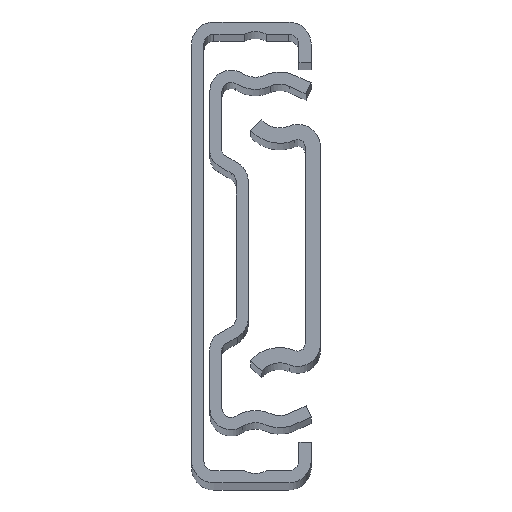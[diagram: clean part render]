
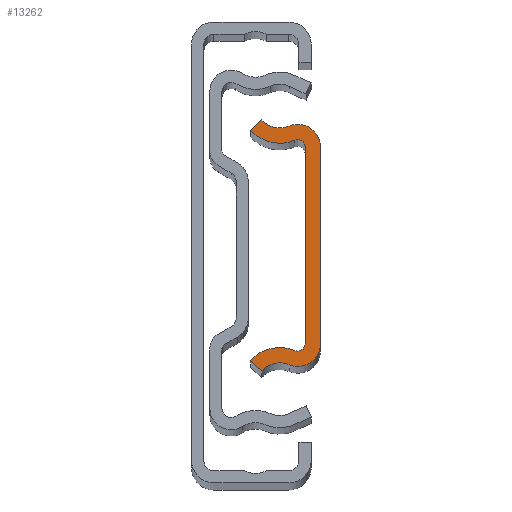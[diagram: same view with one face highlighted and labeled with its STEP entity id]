
A CAD part, top view. The second image highlights one B-rep face of the part: STEP entity #13262.
In plain terms, the highlighted planar face has unit normal (0, 0, 1).
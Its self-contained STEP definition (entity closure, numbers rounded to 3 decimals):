
#267 = CIRCLE ( 'NONE', #20825, 2.226 ) ;
#406 = VERTEX_POINT ( 'NONE', #23713 ) ;
#882 = AXIS2_PLACEMENT_3D ( 'NONE', #21772, #23532, #12826 ) ;
#1216 = EDGE_LOOP ( 'NONE', ( #26510, #10497, #11034, #14051, #3114, #16547, #10845, #7789, #6860, #1339, #12419, #15218 ) ) ;
#1299 = VERTEX_POINT ( 'NONE', #3007 ) ;
#1339 = ORIENTED_EDGE ( 'NONE', *, *, #7280, .T. ) ;
#1352 = CIRCLE ( 'NONE', #20427, 0.726 ) ;
#1672 = CARTESIAN_POINT ( 'NONE',  ( -3.45, 11.377, 0. ) ) ;
#1749 = DIRECTION ( 'NONE',  ( -1., 0., 0. ) ) ;
#1884 = EDGE_CURVE ( 'NONE', #14981, #14782, #4712, .T. ) ;
#2127 = FACE_OUTER_BOUND ( 'NONE', #1216, .T. ) ;
#2227 = PLANE ( 'NONE',  #882 ) ;
#3007 = CARTESIAN_POINT ( 'NONE',  ( 3.45, -9.725, 0. ) ) ;
#3114 = ORIENTED_EDGE ( 'NONE', *, *, #6290, .T. ) ;
#3419 = CIRCLE ( 'NONE', #6223, 2.38 ) ;
#3885 = CARTESIAN_POINT ( 'NONE',  ( 1.224, 9.725, 0. ) ) ;
#4041 = VERTEX_POINT ( 'NONE', #19587 ) ;
#4400 = VERTEX_POINT ( 'NONE', #20883 ) ;
#4637 = VERTEX_POINT ( 'NONE', #8878 ) ;
#4712 = CIRCLE ( 'NONE', #18908, 3.88 ) ;
#4947 = DIRECTION ( 'NONE',  ( 0., 0., -1. ) ) ;
#5802 = DIRECTION ( 'NONE',  ( -1., 0., 0. ) ) ;
#5929 = EDGE_CURVE ( 'NONE', #4400, #25739, #9754, .T. ) ;
#6174 = EDGE_CURVE ( 'NONE', #25760, #4041, #22187, .T. ) ;
#6223 = AXIS2_PLACEMENT_3D ( 'NONE', #24310, #4947, #13225 ) ;
#6290 = EDGE_CURVE ( 'NONE', #25739, #18910, #3419, .T. ) ;
#6659 = DIRECTION ( 'NONE',  ( -0.745, -0.667, 0. ) ) ;
#6860 = ORIENTED_EDGE ( 'NONE', *, *, #8908, .T. ) ;
#7143 = DIRECTION ( 'NONE',  ( 1., 0., 0. ) ) ;
#7153 = CARTESIAN_POINT ( 'NONE',  ( 1.224, -9.725, 0. ) ) ;
#7280 = EDGE_CURVE ( 'NONE', #4637, #406, #1352, .T. ) ;
#7662 = AXIS2_PLACEMENT_3D ( 'NONE', #11621, #26550, #26631 ) ;
#7789 = ORIENTED_EDGE ( 'NONE', *, *, #14131, .T. ) ;
#8017 = EDGE_CURVE ( 'NONE', #1299, #4400, #16057, .T. ) ;
#8878 = CARTESIAN_POINT ( 'NONE',  ( 1.95, -9.725, 0. ) ) ;
#8908 = EDGE_CURVE ( 'NONE', #27377, #4637, #18389, .T. ) ;
#9029 = DIRECTION ( 'NONE',  ( 1., 0., 0. ) ) ;
#9367 = DIRECTION ( 'NONE',  ( 1., 0., 0. ) ) ;
#9474 = DIRECTION ( 'NONE',  ( 0., 0., 1. ) ) ;
#9754 = CIRCLE ( 'NONE', #7662, 2.226 ) ;
#9914 = CIRCLE ( 'NONE', #10166, 3.88 ) ;
#10166 = AXIS2_PLACEMENT_3D ( 'NONE', #22322, #9474, #7143 ) ;
#10348 = VECTOR ( 'NONE', #27679, 1000. ) ;
#10497 = ORIENTED_EDGE ( 'NONE', *, *, #19222, .T. ) ;
#10618 = CARTESIAN_POINT ( 'NONE',  ( -3.45, -11.377, 0. ) ) ;
#10845 = ORIENTED_EDGE ( 'NONE', *, *, #1884, .T. ) ;
#10876 = EDGE_CURVE ( 'NONE', #18910, #14981, #16618, .T. ) ;
#11034 = ORIENTED_EDGE ( 'NONE', *, *, #8017, .T. ) ;
#11046 = AXIS2_PLACEMENT_3D ( 'NONE', #15709, #15896, #9367 ) ;
#11058 = CARTESIAN_POINT ( 'NONE',  ( 1.224, -9.725, 0. ) ) ;
#11621 = CARTESIAN_POINT ( 'NONE',  ( 1.224, 9.725, 0. ) ) ;
#12419 = ORIENTED_EDGE ( 'NONE', *, *, #17088, .T. ) ;
#12539 = CARTESIAN_POINT ( 'NONE',  ( -3.45, 11.377, 0. ) ) ;
#12826 = DIRECTION ( 'NONE',  ( 1., 0., 0. ) ) ;
#13225 = DIRECTION ( 'NONE',  ( -1., 0., 0. ) ) ;
#13262 = ADVANCED_FACE ( 'Face2', ( #2127 ), #2227, .T. ) ;
#13263 = DIRECTION ( 'NONE',  ( 1., 0., 0. ) ) ;
#13378 = VERTEX_POINT ( 'NONE', #19981 ) ;
#14051 = ORIENTED_EDGE ( 'NONE', *, *, #5929, .T. ) ;
#14131 = EDGE_CURVE ( 'NONE', #14782, #27377, #14706, .T. ) ;
#14706 = CIRCLE ( 'NONE', #18822, 0.726 ) ;
#14720 = CARTESIAN_POINT ( 'NONE',  ( 1.95, 9.725, 0. ) ) ;
#14782 = VERTEX_POINT ( 'NONE', #16936 ) ;
#14981 = VERTEX_POINT ( 'NONE', #1672 ) ;
#15078 = EDGE_CURVE ( 'NONE', #13378, #25760, #26779, .T. ) ;
#15218 = ORIENTED_EDGE ( 'NONE', *, *, #15078, .T. ) ;
#15709 = CARTESIAN_POINT ( 'NONE',  ( -0.564, -13.97, 0. ) ) ;
#15896 = DIRECTION ( 'NONE',  ( 0., 0., -1. ) ) ;
#16057 = LINE ( 'NONE', #18505, #23781 ) ;
#16546 = CARTESIAN_POINT ( 'NONE',  ( -0.564, 13.97, 0. ) ) ;
#16547 = ORIENTED_EDGE ( 'NONE', *, *, #10876, .T. ) ;
#16576 = DIRECTION ( 'NONE',  ( 0., 0., -1. ) ) ;
#16593 = VECTOR ( 'NONE', #6659, 1000. ) ;
#16618 = LINE ( 'NONE', #12539, #16593 ) ;
#16936 = CARTESIAN_POINT ( 'NONE',  ( 0.942, 10.394, 0. ) ) ;
#17088 = EDGE_CURVE ( 'NONE', #406, #13378, #9914, .T. ) ;
#17589 = CARTESIAN_POINT ( 'NONE',  ( 1.95, -9.725, 0. ) ) ;
#17672 = CARTESIAN_POINT ( 'NONE',  ( -2.333, -12.378, 0. ) ) ;
#17719 = DIRECTION ( 'NONE',  ( 0., 0., 1. ) ) ;
#18389 = LINE ( 'NONE', #17589, #24401 ) ;
#18505 = CARTESIAN_POINT ( 'NONE',  ( 3.45, -9.725, 0. ) ) ;
#18692 = DIRECTION ( 'NONE',  ( 0., 1., 0. ) ) ;
#18822 = AXIS2_PLACEMENT_3D ( 'NONE', #3885, #16576, #1749 ) ;
#18908 = AXIS2_PLACEMENT_3D ( 'NONE', #16546, #21083, #5802 ) ;
#18910 = VERTEX_POINT ( 'NONE', #27028 ) ;
#19222 = EDGE_CURVE ( 'NONE', #4041, #1299, #267, .T. ) ;
#19587 = CARTESIAN_POINT ( 'NONE',  ( 0.36, -11.777, 0. ) ) ;
#19981 = CARTESIAN_POINT ( 'NONE',  ( -3.45, -11.377, 0. ) ) ;
#20427 = AXIS2_PLACEMENT_3D ( 'NONE', #11058, #26057, #13263 ) ;
#20825 = AXIS2_PLACEMENT_3D ( 'NONE', #7153, #17719, #9029 ) ;
#20883 = CARTESIAN_POINT ( 'NONE',  ( 3.45, 9.725, 0. ) ) ;
#21083 = DIRECTION ( 'NONE',  ( 0., 0., 1. ) ) ;
#21772 = CARTESIAN_POINT ( 'NONE',  ( -0.564, -13.97, 0. ) ) ;
#22012 = CARTESIAN_POINT ( 'NONE',  ( 0.36, 11.777, 0. ) ) ;
#22187 = CIRCLE ( 'NONE', #11046, 2.38 ) ;
#22322 = CARTESIAN_POINT ( 'NONE',  ( -0.564, -13.97, 0. ) ) ;
#23532 = DIRECTION ( 'NONE',  ( 0., 0., 1. ) ) ;
#23713 = CARTESIAN_POINT ( 'NONE',  ( 0.942, -10.394, 0. ) ) ;
#23781 = VECTOR ( 'NONE', #18692, 1000. ) ;
#24310 = CARTESIAN_POINT ( 'NONE',  ( -0.564, 13.97, 0. ) ) ;
#24401 = VECTOR ( 'NONE', #26409, 1000. ) ;
#25739 = VERTEX_POINT ( 'NONE', #22012 ) ;
#25760 = VERTEX_POINT ( 'NONE', #17672 ) ;
#26057 = DIRECTION ( 'NONE',  ( 0., 0., -1. ) ) ;
#26409 = DIRECTION ( 'NONE',  ( 0., -1., 0. ) ) ;
#26510 = ORIENTED_EDGE ( 'NONE', *, *, #6174, .T. ) ;
#26550 = DIRECTION ( 'NONE',  ( 0., 0., 1. ) ) ;
#26631 = DIRECTION ( 'NONE',  ( -1., 0., 0. ) ) ;
#26779 = LINE ( 'NONE', #10618, #10348 ) ;
#27028 = CARTESIAN_POINT ( 'NONE',  ( -2.333, 12.378, 0. ) ) ;
#27377 = VERTEX_POINT ( 'NONE', #14720 ) ;
#27679 = DIRECTION ( 'NONE',  ( 0.745, -0.667, 0. ) ) ;
